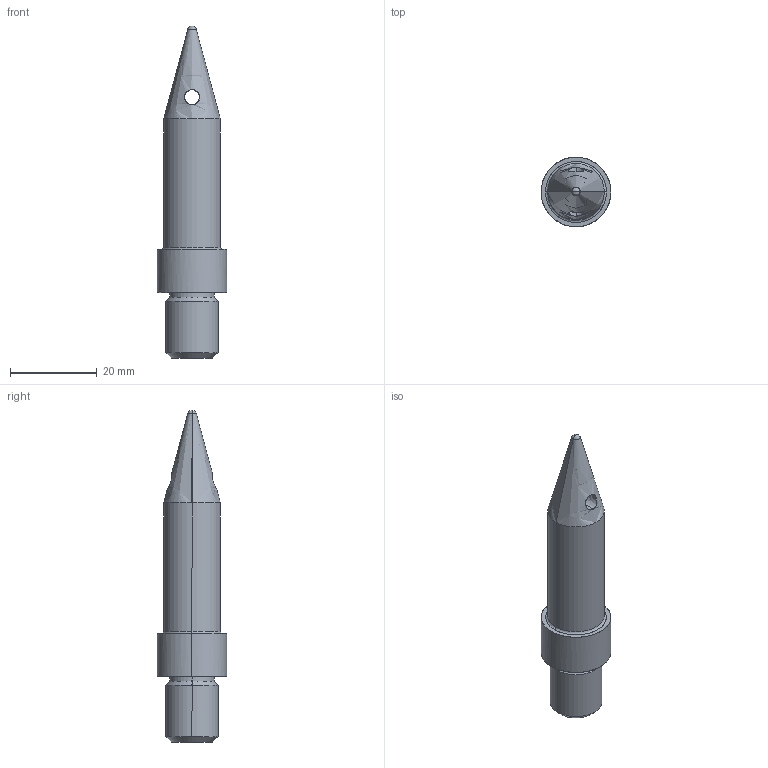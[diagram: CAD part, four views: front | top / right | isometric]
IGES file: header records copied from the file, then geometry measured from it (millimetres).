
Global section: file name: E:\UnigraphicsGraphicData\MISUMI_PRESS-PARTS\IGES\3d_slpsh16-p13.00-b30-t10_02959_r00.igs; native system: NX V5.0; preprocessor: UGS NX IGES V5.0; author: MISUMI; date: 20110105.162802; units: millimetre
Bounding box: 16 x 16 x 76.39 mm (x, y, z)
Surface area: 3154.8 mm2 (no closed solid volume)
Topology: 0 solids, 0 shells, 25 faces, 156 edges, 154 vertices
Faces by surface type: bspline 25
